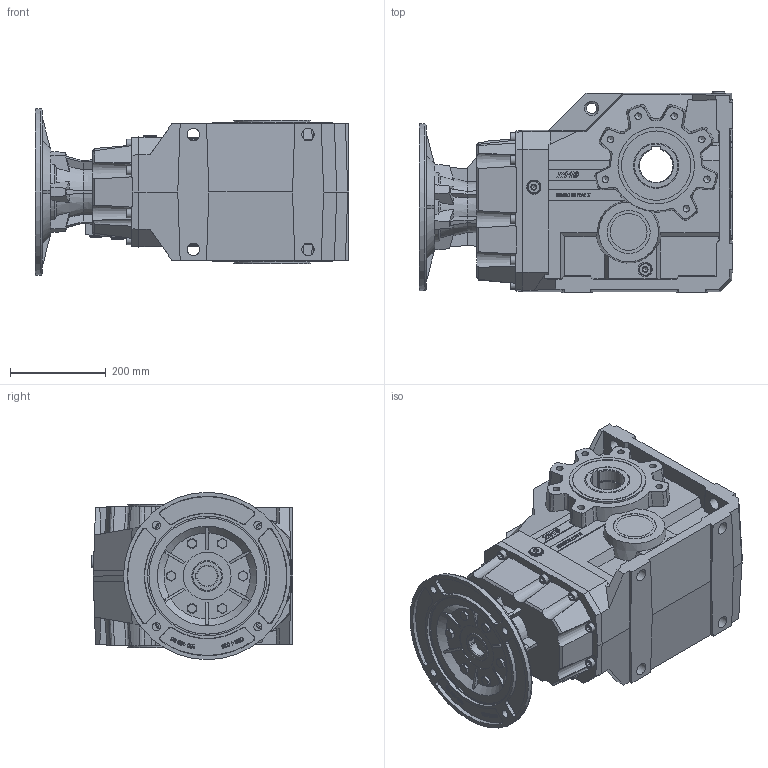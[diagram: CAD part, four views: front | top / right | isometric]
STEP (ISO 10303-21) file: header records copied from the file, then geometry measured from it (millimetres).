
FILE_DESCRIPTION( ( 'Unknown' ), '1' );
FILE_NAME( 'E:/services/configuratordownloads/customers/HYDROMEC/X/download/14BFB4135DC89C13C3CD586459F4DA9/STEP/14BFB4135DC89C13C3CD586459F4DA9.3d.stp', 'Unknown', ( 'Unknown' ), ( 'Unknown' ), 'PSStep 10.1', 'Unknown', ' ' );
FILE_SCHEMA( ( 'AUTOMOTIVE_DESIGN { 1 0 10303 214 1 1 1 1 }' ) );
Length unit declared in the file: millimetre
Products named in the file (1): X1108800
Bounding box: 655.5 x 420.5 x 350 mm (x, y, z)
Volume: 45899175.5 mm3; surface area: 1541856.7 mm2
Topology: 1 solids, 31 shells, 1660 faces, 4253 edges, 2823 vertices
Faces by surface type: plane 1087, cylinder 210, cone 204, bspline 88, extrusion 36, torus 35
Full cylindrical faces by diameter (mm): 6.647 x2, 7.6 x8, 8 x8, 8.5 x8, 9 x8, 10.106 x16, 13 x10, 13.835 x14, 15.6 x8, 17 x4, 17.4 x6, 18 x10, 19.5 x6, 21.5 x6, 26 x14, 27 x6, 30 x6, 65 x1, 77 x1, 87 x1, 90 x1, 100 x4, 103.5 x1, 125 x1, 145 x2, 160 x2, 250 x1
Entity records: 70157 total; most frequent: CARTESIAN_POINT 19587, ORIENTED_EDGE 7484, DIRECTION 7161, EDGE_CURVE 3742, VERTEX_POINT 2643, AXIS2_PLACEMENT_3D 2409, VECTOR 2343, LINE 2307
